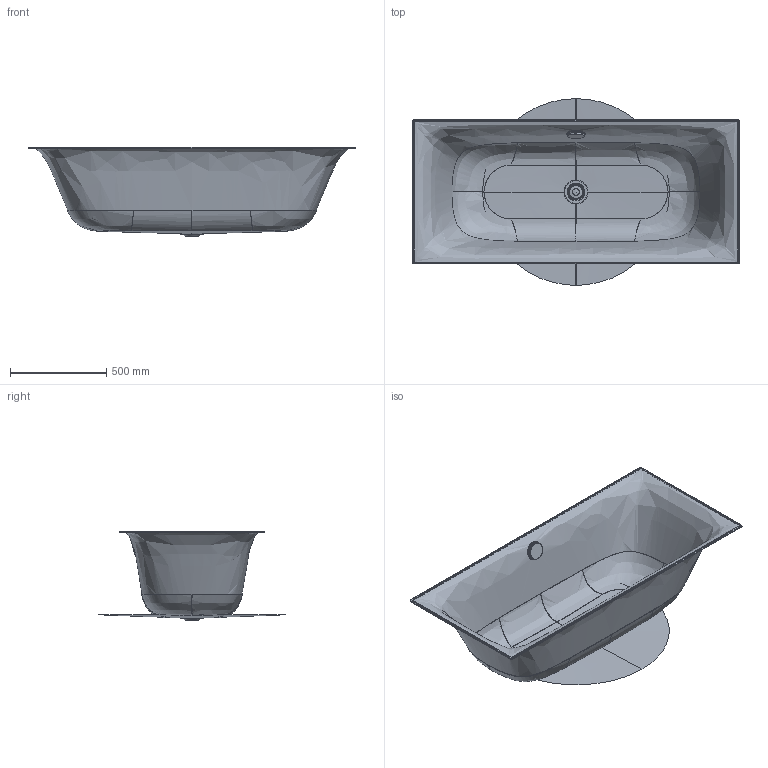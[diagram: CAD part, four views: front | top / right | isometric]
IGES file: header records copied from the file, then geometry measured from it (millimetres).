
Start section: Write IGES format                                    datakit 2008 (c)
Global section: file name: Unknown; native system: DATAKIT Converter; preprocessor: Unknown; author: Unknown; organization: Unknown; date: 950613.180003; units: millimetre
Bounding box: 1699 x 969.48 x 464.8 mm (x, y, z)
Surface area: 3826847 mm2 (no closed solid volume)
Topology: 0 solids, 2 shells, 114 faces, 730 edges, 722 vertices
Faces by surface type: revolution 56, bspline 48, offset 10
